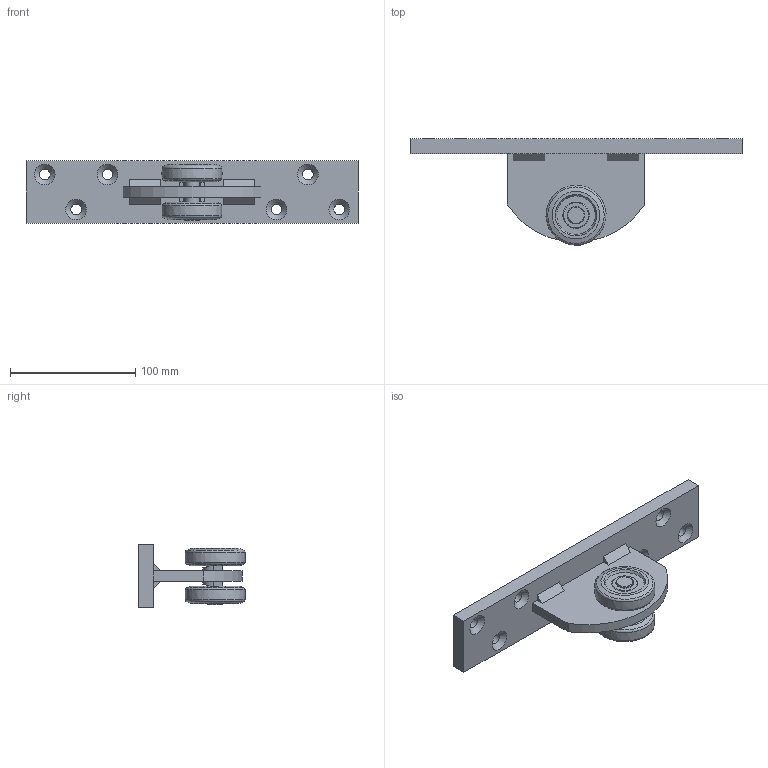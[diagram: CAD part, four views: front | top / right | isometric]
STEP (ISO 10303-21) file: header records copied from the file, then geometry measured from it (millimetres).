
FILE_DESCRIPTION(/* description */ ('Einfachrolle mit Flansch Nr.3'),/* implementation_level */ '2;1');
FILE_NAME(/* name */ 'Q:\sge-ma\Produktmanagement-STB\STB\Workspace\TraceParts\Einfachrolle mit Flansch\010336986.stp',/* time_stamp */ '2018-03-02T12:13:46+01:00',/* author */ ('avschreier'),/* organization */ (''),/* preprocessor_version */ 'ST-DEVELOPER v16.1',/* originating_system */ 'Autodesk Inventor 2016',/* authorisation */ '');
FILE_SCHEMA (('CONFIG_CONTROL_DESIGN'));
Length unit declared in the file: millimetre
Products named in the file (7): 010336986_Schweißnähte; 000302066; 000302010; 336290030; 000303237; 000304012; 010336986
Assembly tree (8 placements, depth 2):
  010336986
    010336986_Schweißnähte
    000302066
    000302010
    336290030  x2
    000303237  x2
    000304012
Bounding box: 265 x 84.98 x 50 mm (x, y, z)
Volume: 253313 mm3; surface area: 67714.8 mm2
Topology: 11 solids, 11 shells, 166 faces, 379 edges, 243 vertices
Faces by surface type: plane 99, cone 24, cylinder 21, bspline 18, torus 4
Full cylindrical faces by diameter (mm): 8.5 x6, 12 x3, 14 x1
Entity records: 4155 total; most frequent: CARTESIAN_POINT 1622, DIRECTION 506, ORIENTED_EDGE 436, EDGE_CURVE 218, AXIS2_PLACEMENT_3D 189, EDGE_LOOP 157, VERTEX_POINT 157, LINE 128
